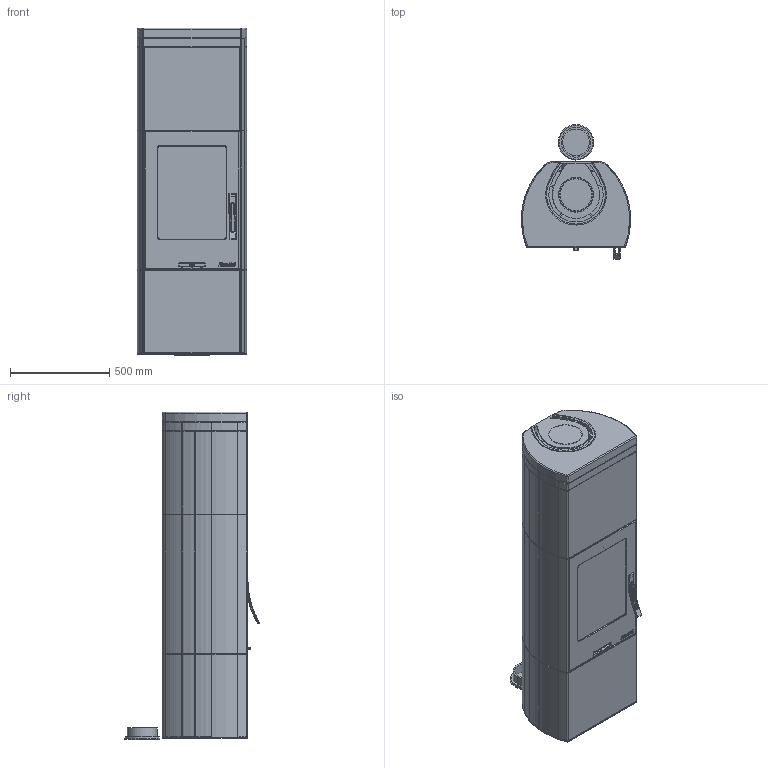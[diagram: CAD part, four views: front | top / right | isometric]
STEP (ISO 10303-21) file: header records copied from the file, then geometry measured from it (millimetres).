
FILE_DESCRIPTION( ( 'Unknown' ), '1' );
FILE_NAME( 'C:/Documents and Settings/haandersr/Application Data/Unigraphics Solutions/Solid Edge/Insight/insight/Insight/interior models/H35T Assembly Soapstone Top.stp', 'Unknown', ( 'Unknown' ), ( 'Unknown' ), 'PSStep 10.1', 'Unknown', ' ' );
FILE_SCHEMA( ( 'AUTOMOTIVE_DESIGN { 1 0 10303 214 1 1 1 1 }' ) );
Length unit declared in the file: millimetre
Products named in the file (29): Assem1; Glass H30; Connection; Lid; Vermiculite H30; Fire H30; Foot H35T; Side Glass H35T; Plate For Sideglass H35T; Inside Shielding H35; Side Glass H35; Bottom Cast Iron H30; Insert H30; Rear Lid H34 H35; Lattice H34 H35; Lid Lattice H34 H35; Rear H35TSoapstone Top; Soapstone Set H35T; Soapstone Top H35
Bounding box: 549.63 x 679.26 x 1650 mm (x, y, z)
Surface area: 36407021.1 mm2
Topology: 58 solids, 58 shells, 4637 faces, 11417 edges, 6955 vertices
Faces by surface type: plane 1799, cylinder 1294, bspline 592, torus 322, extrusion 280, cone 216, sphere 134
Full cylindrical faces by diameter (mm): 2.382 x12, 65 x2, 118 x4, 120 x4, 134 x3, 150 x3, 160 x2, 168 x2, 170 x7, 175 x2, 178 x3, 180 x2
Entity records: 118964 total; most frequent: CARTESIAN_POINT 48280, ORIENTED_EDGE 11182, DIRECTION 10125, EDGE_CURVE 5591, AXIS2_PLACEMENT_3D 3724, VERTEX_POINT 3444, VECTOR 2677, LINE 2537
